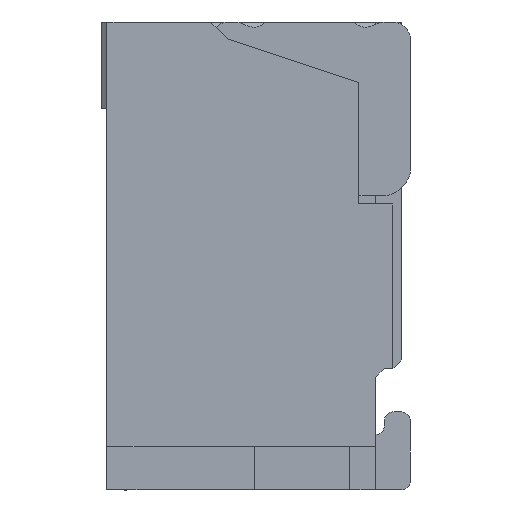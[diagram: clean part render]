
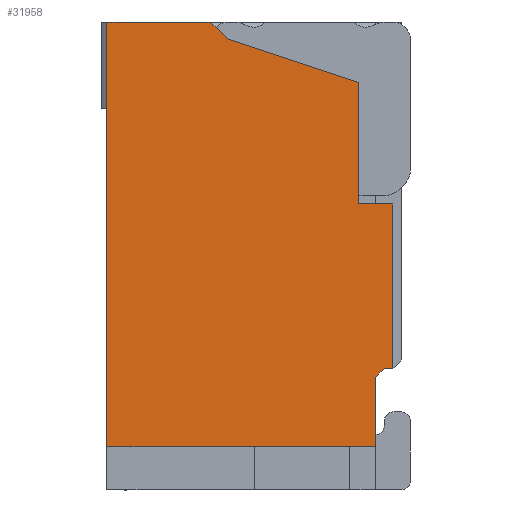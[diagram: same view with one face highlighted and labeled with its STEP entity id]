
A CAD part, left-side view. The second image highlights one B-rep face of the part: STEP entity #31958.
In plain terms, the highlighted planar face has unit normal (-1, 0, 0).
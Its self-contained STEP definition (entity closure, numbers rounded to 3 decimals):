
#485=DIRECTION('',(0.,0.,1.));
#486=VECTOR('',#485,2.45);
#487=CARTESIAN_POINT('',(-6.5,1.7,0.25));
#488=LINE('',#487,#486);
#11439=DIRECTION('',(0.,1.,0.));
#11440=VECTOR('',#11439,1.55);
#11441=CARTESIAN_POINT('',(-6.5,0.15,0.25));
#11442=LINE('',#11441,#11440);
#12087=DIRECTION('',(0.,1.,0.));
#12088=VECTOR('',#12087,0.6);
#12089=CARTESIAN_POINT('',(-6.5,1.1,2.7));
#12090=LINE('',#12089,#12088);
#12091=DIRECTION('',(0.,0.707,0.707));
#12092=VECTOR('',#12091,0.141);
#12093=CARTESIAN_POINT('',(-6.5,1.,2.6));
#12094=LINE('',#12093,#12092);
#12095=DIRECTION('',(0.,0.949,0.316));
#12096=VECTOR('',#12095,0.791);
#12097=CARTESIAN_POINT('',(-6.5,0.25,2.35));
#12098=LINE('',#12097,#12096);
#12099=DIRECTION('',(0.,0.,1.));
#12100=VECTOR('',#12099,0.7);
#12101=CARTESIAN_POINT('',(-6.5,0.25,1.65));
#12102=LINE('',#12101,#12100);
#12103=DIRECTION('',(0.,1.,0.));
#12104=VECTOR('',#12103,0.2);
#12105=CARTESIAN_POINT('',(-6.5,0.05,1.65));
#12106=LINE('',#12105,#12104);
#12107=DIRECTION('',(0.,0.,1.));
#12108=VECTOR('',#12107,0.95);
#12109=CARTESIAN_POINT('',(-6.5,0.05,0.7));
#12110=LINE('',#12109,#12108);
#12111=DIRECTION('',(0.,-1.,0.));
#12112=VECTOR('',#12111,0.05);
#12113=CARTESIAN_POINT('',(-6.5,0.1,0.7));
#12114=LINE('',#12113,#12112);
#12115=DIRECTION('',(0.,-0.707,0.707));
#12116=VECTOR('',#12115,0.071);
#12117=CARTESIAN_POINT('',(-6.5,0.15,0.65));
#12118=LINE('',#12117,#12116);
#12119=DIRECTION('',(0.,0.,1.));
#12120=VECTOR('',#12119,0.4);
#12121=CARTESIAN_POINT('',(-6.5,0.15,0.25));
#12122=LINE('',#12121,#12120);
#13307=CARTESIAN_POINT('',(-6.5,0.05,1.65));
#13308=VERTEX_POINT('',#13307);
#13309=CARTESIAN_POINT('',(-6.5,0.25,1.65));
#13310=VERTEX_POINT('',#13309);
#13335=CARTESIAN_POINT('',(-6.5,1.,2.6));
#13336=CARTESIAN_POINT('',(-6.5,1.1,2.7));
#13337=VERTEX_POINT('',#13335);
#13338=VERTEX_POINT('',#13336);
#13339=CARTESIAN_POINT('',(-6.5,0.25,2.35));
#13340=VERTEX_POINT('',#13339);
#13341=CARTESIAN_POINT('',(-6.5,0.05,0.7));
#13342=VERTEX_POINT('',#13341);
#13343=CARTESIAN_POINT('',(-6.5,0.1,0.7));
#13344=VERTEX_POINT('',#13343);
#13345=CARTESIAN_POINT('',(-6.5,0.15,0.65));
#13346=VERTEX_POINT('',#13345);
#13347=CARTESIAN_POINT('',(-6.5,0.15,0.25));
#13348=VERTEX_POINT('',#13347);
#13349=CARTESIAN_POINT('',(-6.5,1.7,0.25));
#13350=VERTEX_POINT('',#13349);
#13351=CARTESIAN_POINT('',(-6.5,1.7,2.7));
#13352=VERTEX_POINT('',#13351);
#31937=CARTESIAN_POINT('',(-6.5,0.049,2.701));
#31938=DIRECTION('',(-1.,0.,0.));
#31939=DIRECTION('',(0.,1.,0.));
#31940=AXIS2_PLACEMENT_3D('',#31937,#31938,#31939);
#31941=PLANE('',#31940);
#31942=ORIENTED_EDGE('',*,*,#17375,.F.);
#31944=ORIENTED_EDGE('',*,*,#31943,.F.);
#31946=ORIENTED_EDGE('',*,*,#31945,.F.);
#31947=ORIENTED_EDGE('',*,*,#17188,.F.);
#31948=ORIENTED_EDGE('',*,*,#17213,.F.);
#31950=ORIENTED_EDGE('',*,*,#31949,.F.);
#31951=ORIENTED_EDGE('',*,*,#31913,.F.);
#31952=ORIENTED_EDGE('',*,*,#31930,.F.);
#31953=ORIENTED_EDGE('',*,*,#17794,.F.);
#31954=ORIENTED_EDGE('',*,*,#30985,.T.);
#31955=ORIENTED_EDGE('',*,*,#17481,.T.);
#31956=EDGE_LOOP('',(#31942,#31944,#31946,#31947,#31948,#31950,#31951,#31952,
#31953,#31954,#31955));
#31957=FACE_OUTER_BOUND('',#31956,.F.);
#31958=ADVANCED_FACE('',(#31957),#31941,.T.);
#17188=EDGE_CURVE('',#13310,#13340,#12102,.T.);
#17213=EDGE_CURVE('',#13308,#13310,#12106,.T.);
#17375=EDGE_CURVE('',#13338,#13352,#12090,.T.);
#17481=EDGE_CURVE('',#13350,#13352,#488,.T.);
#17794=EDGE_CURVE('',#13348,#13346,#12122,.T.);
#30985=EDGE_CURVE('',#13348,#13350,#11442,.T.);
#31913=EDGE_CURVE('',#13344,#13342,#12114,.T.);
#31930=EDGE_CURVE('',#13346,#13344,#12118,.T.);
#31943=EDGE_CURVE('',#13337,#13338,#12094,.T.);
#31945=EDGE_CURVE('',#13340,#13337,#12098,.T.);
#31949=EDGE_CURVE('',#13342,#13308,#12110,.T.);
